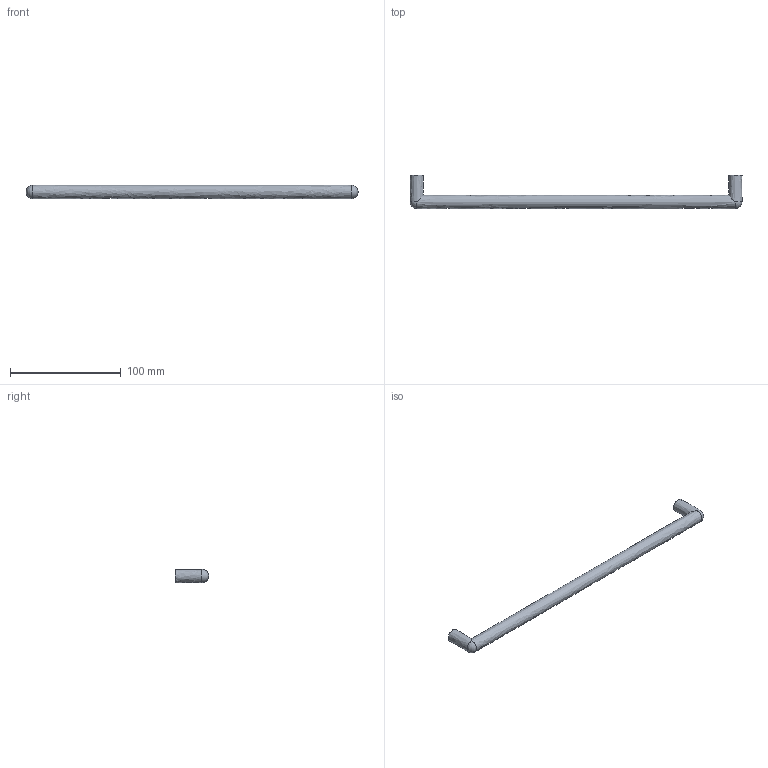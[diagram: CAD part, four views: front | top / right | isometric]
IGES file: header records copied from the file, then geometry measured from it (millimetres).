
Start section: Data from Parasolid IGES Translator 15.0.47, Copyright(c) 2006 Siemens P LM Software. All Rights Reserved.
Global section: file name:  9070995.igs; native system:  By UGS Corp.; preprocessor: XPlus GENERIC/IGES 3.0; author: Noname; organization: Noname; date: 20140122.181534; units: millimetre
Bounding box: 300 x 30 x 12 mm (x, y, z)
Surface area: 13145.5 mm2 (no closed solid volume)
Topology: 0 solids, 0 shells, 11 faces, 38 edges, 30 vertices
Faces by surface type: revolution 7, extrusion 4
